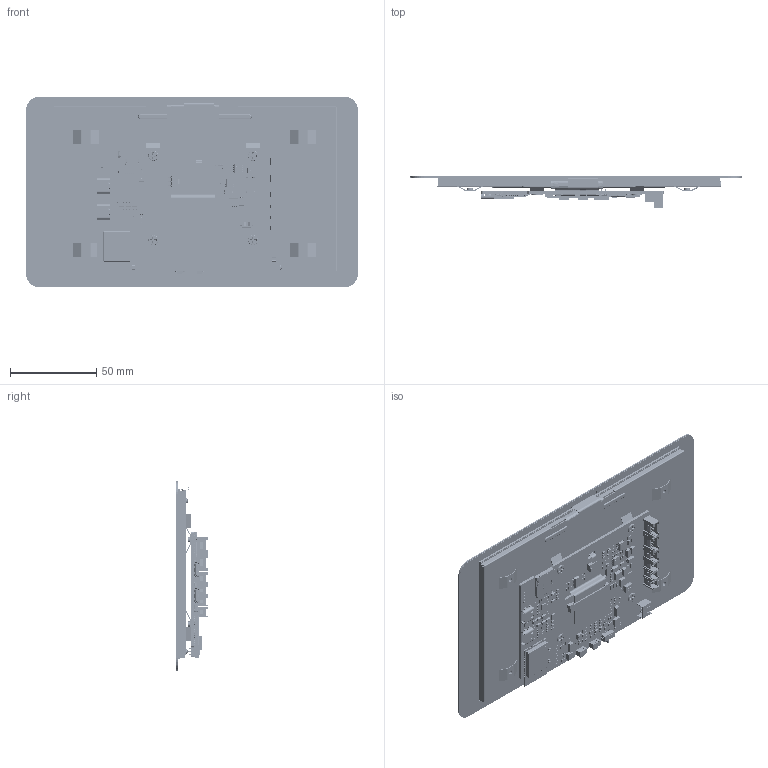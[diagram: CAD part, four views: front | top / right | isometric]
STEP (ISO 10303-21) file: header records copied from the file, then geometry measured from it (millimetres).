
FILE_DESCRIPTION((''),'2;1');
FILE_NAME('ESP32-S3-TOUCH-LCD-7B_ASM','2025-10-25T15:17:07',('xiaojisheng'),(''),'CREO PARAMETRIC BY PTC INC, 2021063','CREO PARAMETRIC BY PTC INC, 2021063','');
FILE_SCHEMA(('CONFIG_CONTROL_DESIGN','SHAPE_APPEARANCE_LAYERS_GROUPS'));
Products named in the file (567): 7INCH-800X480-TP; 7INCH-800X480-LCD; 7INCH-DSI-TOUCHSCREEN-BRACKET; EVA; 7INCH-DSI-TOUCHSCREEN_ASM; BOARD; SOT23-5AND6_00; SOT23-5-14065_AF0; SOT23-5-14113_AF0_ASM_ASM; SOT23-5-2_ASM; U15_ASM; _2_1_2_3_4_AF0; _7_1_2_AF0; 5_1_2_3_400; R_0603-3601_AF0_ASM_ASM; R_0603-3615_AF0_ASM_ASM; R0603_ASM; R81_ASM; R79_ASM; SOT-23; Q1_ASM; SOD323; D7_ASM; 2_1_200; _1_1_20001; 3_1_2_A; C_0603-683_AF0_ASM_ASM; C_0603-7177_AF0_ASM_ASM; C_0603_ASM; C51_ASM; 100; _10001; 00_ASM_ASM; 00; CSW1_27-SMD-2P-913; CSW1_27-SMD-2P-9069_ASM_ASM; SW1_27-SMD-2P_ASM_ASM; SW2_ASM; R19_ASM; R18_ASM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
Assembly tree (928 placements, depth 12):
  ESP32-S3-TOUCH-LCD-7B_ASM
    7INCH-DSI-TOUCHSCREEN_ASM
      7INCH-800X480-TP
      7INCH-800X480-LCD
      7INCH-DSI-TOUCHSCREEN-BRACKET
      EVA
    ESP32-S3-TOUCH-LCD-7B-PCBA_ASM
      ESP32-S3-TOUCH-LCD-7B-PCB_ASM
        PCB_ASM
          BOARD
          U15_ASM
            SOT23-5-2_ASM
              SOT23-5-14113_AF0_ASM_ASM
                SOT23-5AND6_00  x5
                SOT23-5-14065_AF0
          R81_ASM
            R0603_ASM
              R_0603-3615_AF0_ASM_ASM
                R_0603-3601_AF0_ASM_ASM
                  _2_1_2_3_4_AF0
                  _7_1_2_AF0
                  5_1_2_3_400
          R79_ASM
            R0603_ASM
              R_0603-3615_AF0_ASM_ASM
                R_0603-3601_AF0_ASM_ASM
                  _2_1_2_3_4_AF0
                  _7_1_2_AF0
                  5_1_2_3_400
          Q1_ASM
            SOT-23
          D7_ASM
            SOD323
          C51_ASM
            C_0603_ASM
              C_0603-7177_AF0_ASM_ASM
                C_0603-683_AF0_ASM_ASM
                  2_1_200
                  _1_1_20001
                  3_1_2_A
          SW2_ASM
            SW1_27-SMD-2P_ASM_ASM
              CSW1_27-SMD-2P-9069_ASM_ASM
                00_ASM_ASM  x2
                  100
                  _10001
                00  x4
                CSW1_27-SMD-2P-913
          R19_ASM
            R0603_ASM
              R_0603-3615_AF0_ASM_ASM
                R_0603-3601_AF0_ASM_ASM
                  _2_1_2_3_4_AF0
                  _7_1_2_AF0
                  5_1_2_3_400
          R18_ASM
            R0603_ASM
              R_0603-3615_AF0_ASM_ASM
                R_0603-3601_AF0_ASM_ASM
                  _2_1_2_3_4_AF0
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Bounding box: 192.96 x 18.4 x 110.76 mm (x, y, z)
Volume: 103814.4 mm3; surface area: 186558.1 mm2
Topology: 801 solids, 815 shells, 57702 faces, 153314 edges, 101054 vertices
Faces by surface type: plane 40313, extrusion 12860, cylinder 3826, sphere 461, torus 96, cone 90, bspline 56
Entity records: 440403 total; most frequent: CARTESIAN_POINT 92595, ORIENTED_EDGE 52444, DIRECTION 49485, PRESENTATION_STYLE_ASSIGNMENT 27602, STYLED_ITEM 26558, CURVE_STYLE 26295, EDGE_CURVE 26236, VECTOR 21687
